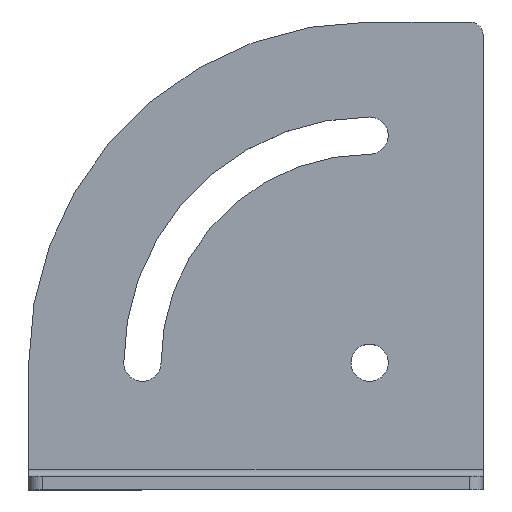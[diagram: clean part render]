
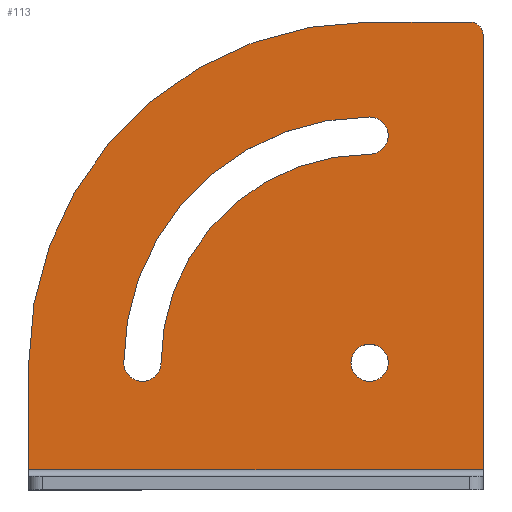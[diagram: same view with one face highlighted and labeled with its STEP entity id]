
A CAD part, top view. The second image highlights one B-rep face of the part: STEP entity #113.
In plain terms, the highlighted planar face has unit normal (0, 0, 1).
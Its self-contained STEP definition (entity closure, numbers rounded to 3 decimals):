
#2 = EDGE_CURVE ( 'NONE', #993, #249, #1005, .T. ) ;
#4 = VERTEX_POINT ( 'NONE', #751 ) ;
#22 = CARTESIAN_POINT ( 'NONE',  ( 79.08, 72.784, 3. ) ) ;
#30 = VERTEX_POINT ( 'NONE', #942 ) ;
#44 = DIRECTION ( 'NONE',  ( 0., 0., -1. ) ) ;
#65 = CARTESIAN_POINT ( 'NONE',  ( 54.08, 0.784, 3. ) ) ;
#66 = CARTESIAN_POINT ( 'NONE',  ( -20.92, -27.216, 3. ) ) ;
#83 = EDGE_LOOP ( 'NONE', ( #395, #832 ) ) ;
#100 = VERTEX_POINT ( 'NONE', #758 ) ;
#107 = CARTESIAN_POINT ( 'NONE',  ( 79.08, 75.784, 3. ) ) ;
#113 = ADVANCED_FACE ( 'NONE', ( #1134, #659, #192 ), #1133, .T. ) ;
#131 = EDGE_CURVE ( 'NONE', #1057, #565, #401, .T. ) ;
#141 = EDGE_CURVE ( 'NONE', #100, #993, #1113, .T. ) ;
#142 = DIRECTION ( 'NONE',  ( 0., 0., 1. ) ) ;
#155 = DIRECTION ( 'NONE',  ( 1., 0., 0. ) ) ;
#161 = VECTOR ( 'NONE', #155, 1000. ) ;
#170 = CIRCLE ( 'NONE', #255, 4.1 ) ;
#182 = AXIS2_PLACEMENT_3D ( 'NONE', #954, #418, #1037 ) ;
#192 = FACE_BOUND ( 'NONE', #83, .T. ) ;
#202 = LINE ( 'NONE', #724, #224 ) ;
#203 = DIRECTION ( 'NONE',  ( 0., 1., 0. ) ) ;
#206 = DIRECTION ( 'NONE',  ( -1., 0., 0. ) ) ;
#209 = CARTESIAN_POINT ( 'NONE',  ( 49.98, 0.784, 3. ) ) ;
#224 = VECTOR ( 'NONE', #206, 1000. ) ;
#227 = ORIENTED_EDGE ( 'NONE', *, *, #1122, .T. ) ;
#238 = EDGE_LOOP ( 'NONE', ( #227, #975, #494, #841, #1090, #846 ) ) ;
#246 = DIRECTION ( 'NONE',  ( 1., 0., 0. ) ) ;
#249 = VERTEX_POINT ( 'NONE', #1148 ) ;
#255 = AXIS2_PLACEMENT_3D ( 'NONE', #480, #1109, #563 ) ;
#271 = CARTESIAN_POINT ( 'NONE',  ( 54.08, 0.784, 3. ) ) ;
#277 = DIRECTION ( 'NONE',  ( 0., 0., 1. ) ) ;
#316 = EDGE_CURVE ( 'NONE', #809, #30, #1146, .T. ) ;
#320 = DIRECTION ( 'NONE',  ( 0., 0., 1. ) ) ;
#327 = ORIENTED_EDGE ( 'NONE', *, *, #316, .F. ) ;
#342 = ORIENTED_EDGE ( 'NONE', *, *, #349, .F. ) ;
#343 = DIRECTION ( 'NONE',  ( 0., 0., 1. ) ) ;
#348 = DIRECTION ( 'NONE',  ( 0., 0., 1. ) ) ;
#349 = EDGE_CURVE ( 'NONE', #249, #809, #668, .T. ) ;
#357 = ORIENTED_EDGE ( 'NONE', *, *, #998, .F. ) ;
#361 = DIRECTION ( 'NONE',  ( 1., 0., 0. ) ) ;
#362 = AXIS2_PLACEMENT_3D ( 'NONE', #1020, #44, #939 ) ;
#368 = EDGE_LOOP ( 'NONE', ( #342, #1130, #961, #357, #327 ) ) ;
#395 = ORIENTED_EDGE ( 'NONE', *, *, #744, .F. ) ;
#401 = LINE ( 'NONE', #959, #161 ) ;
#402 = AXIS2_PLACEMENT_3D ( 'NONE', #875, #348, #970 ) ;
#418 = DIRECTION ( 'NONE',  ( 0., 0., 1. ) ) ;
#426 = EDGE_CURVE ( 'NONE', #881, #860, #1063, .T. ) ;
#457 = CARTESIAN_POINT ( 'NONE',  ( -20.92, 0.784, 3. ) ) ;
#480 = CARTESIAN_POINT ( 'NONE',  ( 54.08, 0.784, 3. ) ) ;
#494 = ORIENTED_EDGE ( 'NONE', *, *, #905, .T. ) ;
#520 = CARTESIAN_POINT ( 'NONE',  ( 79.08, -22.716, 3. ) ) ;
#542 = LINE ( 'NONE', #66, #990 ) ;
#563 = DIRECTION ( 'NONE',  ( 1., 0., 0. ) ) ;
#565 = VERTEX_POINT ( 'NONE', #520 ) ;
#603 = AXIS2_PLACEMENT_3D ( 'NONE', #271, #891, #361 ) ;
#639 = CARTESIAN_POINT ( 'NONE',  ( 58.18, 0.784, 3. ) ) ;
#659 = FACE_BOUND ( 'NONE', #368, .T. ) ;
#668 = CIRCLE ( 'NONE', #793, 4.1 ) ;
#669 = CARTESIAN_POINT ( 'NONE',  ( 54.08, 50.784, 3. ) ) ;
#677 = CIRCLE ( 'NONE', #722, 3. ) ;
#694 = EDGE_CURVE ( 'NONE', #860, #1057, #542, .T. ) ;
#720 = CARTESIAN_POINT ( 'NONE',  ( 54.08, 75.784, 3. ) ) ;
#722 = AXIS2_PLACEMENT_3D ( 'NONE', #804, #277, #900 ) ;
#724 = CARTESIAN_POINT ( 'NONE',  ( 79.08, 75.784, 3. ) ) ;
#744 = EDGE_CURVE ( 'NONE', #911, #929, #1043, .T. ) ;
#751 = CARTESIAN_POINT ( 'NONE',  ( 76.08, 75.784, 3. ) ) ;
#757 = DIRECTION ( 'NONE',  ( 1., 0., 0. ) ) ;
#758 = CARTESIAN_POINT ( 'NONE',  ( -0.02, 0.784, 3. ) ) ;
#770 = DIRECTION ( 'NONE',  ( 0., 0., 1. ) ) ;
#793 = AXIS2_PLACEMENT_3D ( 'NONE', #669, #142, #757 ) ;
#804 = CARTESIAN_POINT ( 'NONE',  ( 76.08, 72.784, 3. ) ) ;
#809 = VERTEX_POINT ( 'NONE', #1076 ) ;
#832 = ORIENTED_EDGE ( 'NONE', *, *, #971, .F. ) ;
#841 = ORIENTED_EDGE ( 'NONE', *, *, #426, .T. ) ;
#846 = ORIENTED_EDGE ( 'NONE', *, *, #131, .T. ) ;
#851 = CARTESIAN_POINT ( 'NONE',  ( 54.08, 50.784, 3. ) ) ;
#860 = VERTEX_POINT ( 'NONE', #457 ) ;
#862 = VECTOR ( 'NONE', #203, 1000. ) ;
#870 = CARTESIAN_POINT ( 'NONE',  ( 4.08, 0.784, 3. ) ) ;
#875 = CARTESIAN_POINT ( 'NONE',  ( 54.08, 0.784, 3. ) ) ;
#881 = VERTEX_POINT ( 'NONE', #720 ) ;
#891 = DIRECTION ( 'NONE',  ( 0., 0., 1. ) ) ;
#900 = DIRECTION ( 'NONE',  ( 1., 0., 0. ) ) ;
#905 = EDGE_CURVE ( 'NONE', #4, #881, #202, .T. ) ;
#911 = VERTEX_POINT ( 'NONE', #639 ) ;
#929 = VERTEX_POINT ( 'NONE', #209 ) ;
#936 = VERTEX_POINT ( 'NONE', #22 ) ;
#939 = DIRECTION ( 'NONE',  ( 1., 0., 0. ) ) ;
#941 = DIRECTION ( 'NONE',  ( 1., 0., 0. ) ) ;
#942 = CARTESIAN_POINT ( 'NONE',  ( 54.08, 54.884, 3. ) ) ;
#948 = CIRCLE ( 'NONE', #603, 54.1 ) ;
#954 = CARTESIAN_POINT ( 'NONE',  ( 54.08, 0.784, 3. ) ) ;
#959 = CARTESIAN_POINT ( 'NONE',  ( 54.08, -22.716, 3. ) ) ;
#961 = ORIENTED_EDGE ( 'NONE', *, *, #141, .F. ) ;
#963 = DIRECTION ( 'NONE',  ( 1., 0., 0. ) ) ;
#970 = DIRECTION ( 'NONE',  ( 1., 0., 0. ) ) ;
#971 = EDGE_CURVE ( 'NONE', #929, #911, #170, .T. ) ;
#975 = ORIENTED_EDGE ( 'NONE', *, *, #1051, .T. ) ;
#977 = AXIS2_PLACEMENT_3D ( 'NONE', #851, #320, #941 ) ;
#990 = VECTOR ( 'NONE', #1041, 1000. ) ;
#993 = VERTEX_POINT ( 'NONE', #1114 ) ;
#998 = EDGE_CURVE ( 'NONE', #30, #100, #948, .T. ) ;
#1005 = CIRCLE ( 'NONE', #362, 45.9 ) ;
#1020 = CARTESIAN_POINT ( 'NONE',  ( 54.08, 0.784, 3. ) ) ;
#1037 = DIRECTION ( 'NONE',  ( 1., 0., 0. ) ) ;
#1041 = DIRECTION ( 'NONE',  ( 0., -1., 0. ) ) ;
#1043 = CIRCLE ( 'NONE', #402, 4.1 ) ;
#1051 = EDGE_CURVE ( 'NONE', #936, #4, #677, .T. ) ;
#1057 = VERTEX_POINT ( 'NONE', #1074 ) ;
#1063 = CIRCLE ( 'NONE', #182, 75. ) ;
#1072 = LINE ( 'NONE', #107, #862 ) ;
#1074 = CARTESIAN_POINT ( 'NONE',  ( -20.92, -22.716, 3. ) ) ;
#1076 = CARTESIAN_POINT ( 'NONE',  ( 58.18, 50.784, 3. ) ) ;
#1079 = AXIS2_PLACEMENT_3D ( 'NONE', #65, #770, #246 ) ;
#1090 = ORIENTED_EDGE ( 'NONE', *, *, #694, .T. ) ;
#1109 = DIRECTION ( 'NONE',  ( 0., 0., 1. ) ) ;
#1113 = CIRCLE ( 'NONE', #1137, 4.1 ) ;
#1114 = CARTESIAN_POINT ( 'NONE',  ( 8.18, 0.784, 3. ) ) ;
#1122 = EDGE_CURVE ( 'NONE', #565, #936, #1072, .T. ) ;
#1130 = ORIENTED_EDGE ( 'NONE', *, *, #2, .F. ) ;
#1133 = PLANE ( 'NONE',  #1079 ) ;
#1134 = FACE_OUTER_BOUND ( 'NONE', #238, .T. ) ;
#1137 = AXIS2_PLACEMENT_3D ( 'NONE', #870, #343, #963 ) ;
#1146 = CIRCLE ( 'NONE', #977, 4.1 ) ;
#1148 = CARTESIAN_POINT ( 'NONE',  ( 54.08, 46.684, 3. ) ) ;
